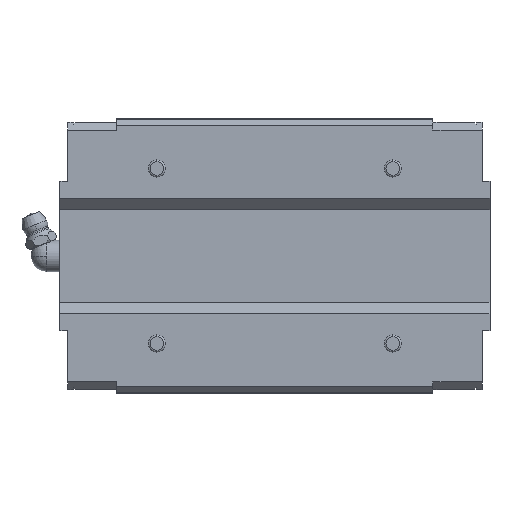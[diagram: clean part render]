
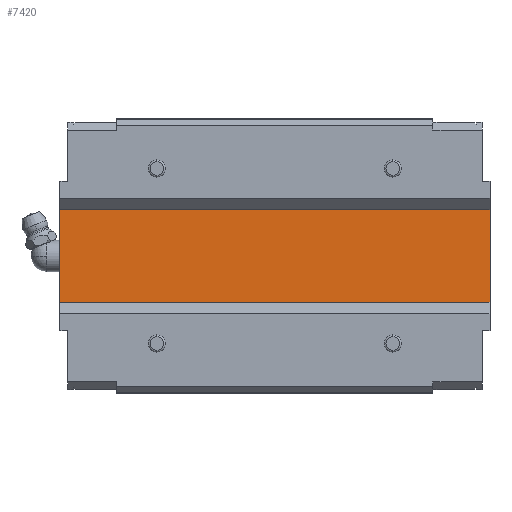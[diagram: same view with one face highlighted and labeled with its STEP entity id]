
A CAD part, front view. The second image highlights one B-rep face of the part: STEP entity #7420.
In plain terms, the highlighted planar face has unit normal (0, -1, 0).
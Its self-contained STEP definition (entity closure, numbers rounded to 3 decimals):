
#371 = CARTESIAN_POINT ( 'NONE',  ( 54.7, 29., 13.11 ) ) ;
#559 = VECTOR ( 'NONE', #1449, 1000. ) ;
#602 = AXIS2_PLACEMENT_3D ( 'NONE', #7875, #6571, #2852 ) ;
#686 = VERTEX_POINT ( 'NONE', #6870 ) ;
#1009 = LINE ( 'NONE', #3382, #4384 ) ;
#1183 = VECTOR ( 'NONE', #4850, 1000. ) ;
#1257 = ORIENTED_EDGE ( 'NONE', *, *, #1362, .F. ) ;
#1362 = EDGE_CURVE ( 'NONE', #686, #6918, #5154, .T. ) ;
#1375 = CARTESIAN_POINT ( 'NONE',  ( 54.7, 29., -13.11 ) ) ;
#1449 = DIRECTION ( 'NONE',  ( 0., 0., 1. ) ) ;
#1579 = ORIENTED_EDGE ( 'NONE', *, *, #3253, .T. ) ;
#2249 = EDGE_LOOP ( 'NONE', ( #1257, #5296, #1579, #2530 ) ) ;
#2530 = ORIENTED_EDGE ( 'NONE', *, *, #7976, .T. ) ;
#2852 = DIRECTION ( 'NONE',  ( 0., 0., -1. ) ) ;
#3019 = CARTESIAN_POINT ( 'NONE',  ( 54.7, 29., -13.11 ) ) ;
#3253 = EDGE_CURVE ( 'NONE', #6205, #6305, #7964, .T. ) ;
#3382 = CARTESIAN_POINT ( 'NONE',  ( 54.7, 29., -13.11 ) ) ;
#3502 = DIRECTION ( 'NONE',  ( -1., 0., 0. ) ) ;
#4384 = VECTOR ( 'NONE', #3502, 1000. ) ;
#4850 = DIRECTION ( 'NONE',  ( -1., 0., 0. ) ) ;
#5154 = LINE ( 'NONE', #6998, #559 ) ;
#5296 = ORIENTED_EDGE ( 'NONE', *, *, #5891, .F. ) ;
#5343 = PLANE ( 'NONE',  #602 ) ;
#5891 = EDGE_CURVE ( 'NONE', #6205, #686, #1009, .T. ) ;
#6205 = VERTEX_POINT ( 'NONE', #1375 ) ;
#6239 = VECTOR ( 'NONE', #8002, 1000. ) ;
#6305 = VERTEX_POINT ( 'NONE', #371 ) ;
#6571 = DIRECTION ( 'NONE',  ( 0., -1., 0. ) ) ;
#6723 = CARTESIAN_POINT ( 'NONE',  ( 54.7, 29., 13.11 ) ) ;
#6870 = CARTESIAN_POINT ( 'NONE',  ( -54.7, 29., -13.11 ) ) ;
#6918 = VERTEX_POINT ( 'NONE', #7724 ) ;
#6998 = CARTESIAN_POINT ( 'NONE',  ( -54.7, 29., -13.11 ) ) ;
#7420 = ADVANCED_FACE ( 'NONE', ( #7831 ), #5343, .T. ) ;
#7724 = CARTESIAN_POINT ( 'NONE',  ( -54.7, 29., 13.11 ) ) ;
#7831 = FACE_OUTER_BOUND ( 'NONE', #2249, .T. ) ;
#7875 = CARTESIAN_POINT ( 'NONE',  ( 54.7, 29., -13.11 ) ) ;
#7964 = LINE ( 'NONE', #3019, #6239 ) ;
#7976 = EDGE_CURVE ( 'NONE', #6305, #6918, #8030, .T. ) ;
#8002 = DIRECTION ( 'NONE',  ( 0., 0., 1. ) ) ;
#8030 = LINE ( 'NONE', #6723, #1183 ) ;
